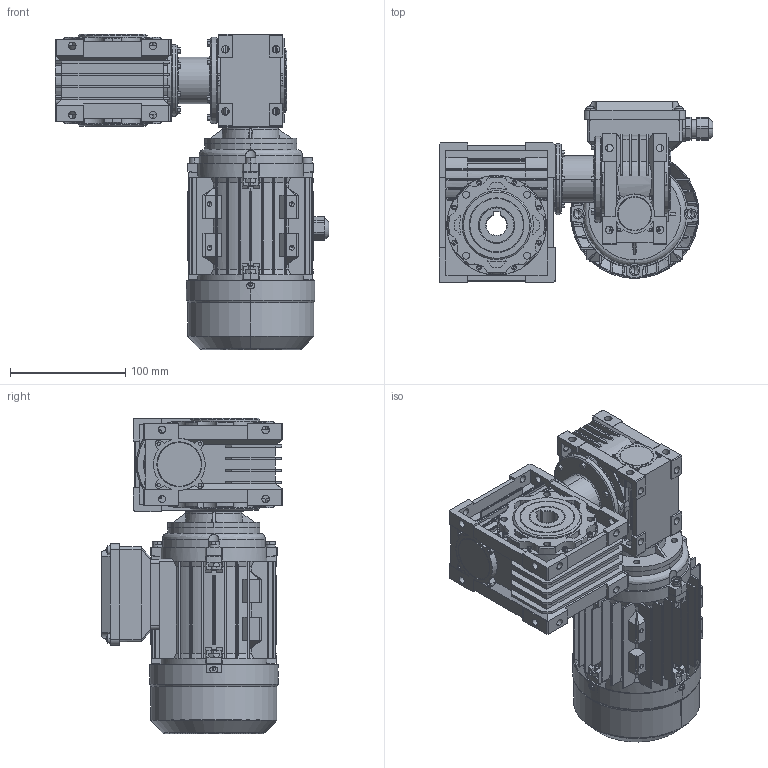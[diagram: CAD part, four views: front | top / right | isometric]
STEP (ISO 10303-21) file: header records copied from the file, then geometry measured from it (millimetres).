
FILE_DESCRIPTION (( 'STEP AP214' ), '1' );
FILE_NAME ('CMRV030-040-M56.STEP', '2018-11-20T13:39:38', ( '' ), ( '' ), 'SwSTEP 2.0', 'SolidWorks 2012', '' );
FILE_SCHEMA (( 'AUTOMOTIVE_DESIGN' ));
Length unit declared in the file: millimetre
Products named in the file (12): MS56_B14; CMRV030-040-56B14; FCN 030火耳; FCNDK 040火耳; 8; 7; 5; 3; 2; 1; CMRV030-040-M56
Assembly tree (11 placements, depth 3):
  CMRV030-040-M56
    CMRV030-040-56B14
      1
      2
      3
      5
      7
      8
      FCNDK 040火耳
      FCN 030火耳
    MS56_B14
      MS56_B14
Bounding box: 238 x 158 x 274 mm (x, y, z)
Volume: 1518854.9 mm3; surface area: 540973.6 mm2
Topology: 9 solids, 62 shells, 3747 faces, 9801 edges, 6332 vertices
Faces by surface type: plane 2140, cylinder 1162, cone 280, bspline 159, torus 6
Entity records: 121325 total; most frequent: CARTESIAN_POINT 28647, ORIENTED_EDGE 19538, DIRECTION 18869, EDGE_CURVE 9769, AXIS2_PLACEMENT_3D 6501, VERTEX_POINT 6332, LINE 5867, VECTOR 5867
